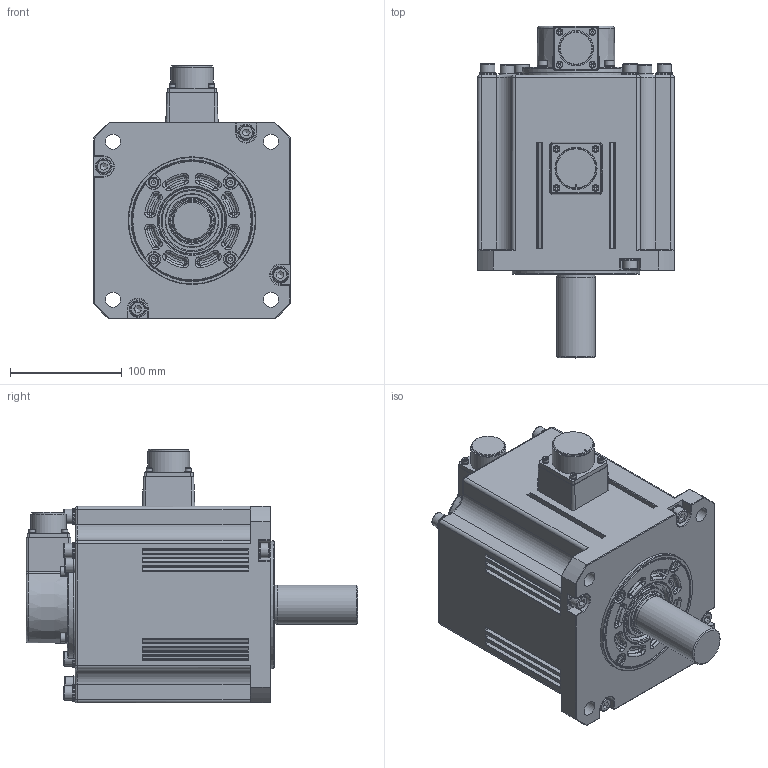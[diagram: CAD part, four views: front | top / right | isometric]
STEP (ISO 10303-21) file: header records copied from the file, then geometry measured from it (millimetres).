
FILE_DESCRIPTION((''),'2;1');
FILE_NAME('C:\Documents and Settings\11644\桌面\SME-M300B.stp','2016-07-15T19:52:27',('11644'),(''),'Autodesk Inventor 2008','Autodesk Inventor 2008','');
FILE_SCHEMA(('AUTOMOTIVE_DESIGN { 1 0 10303 214 1 1 1 1 }'));
Length unit declared in the file: millimetre
Products named in the file (2): SME-M300B; SME-M300B_55
Assembly tree (1 placements, depth 2):
  SME-M300B
    SME-M300B_55
Bounding box: 176 x 297 x 227.3 mm (x, y, z)
Volume: 5234021.8 mm3; surface area: 250304.2 mm2
Topology: 1 solids, 1 shells, 992 faces, 2318 edges, 1405 vertices
Faces by surface type: plane 397, cylinder 321, torus 140, cone 63, bspline 63, sphere 8
Full cylindrical faces by diameter (mm): 5.5 x8, 6 x8, 8.5 x8, 9 x8, 13 x11, 13.5 x4, 15 x11, 29.5 x1, 31.5 x1, 34.8 x1, 35 x1, 36 x1, 37.7 x1, 40 x1, 47.112 x2, 55.504 x1, 60 x1, 95.8 x1, 108 x1, 114.3 x1
Entity records: 30656 total; most frequent: CARTESIAN_POINT 7967, DIRECTION 4622, ORIENTED_EDGE 4146, EDGE_CURVE 2073, AXIS2_PLACEMENT_3D 1819, VERTEX_POINT 1367, EDGE_LOOP 1284, STYLED_ITEM 993
